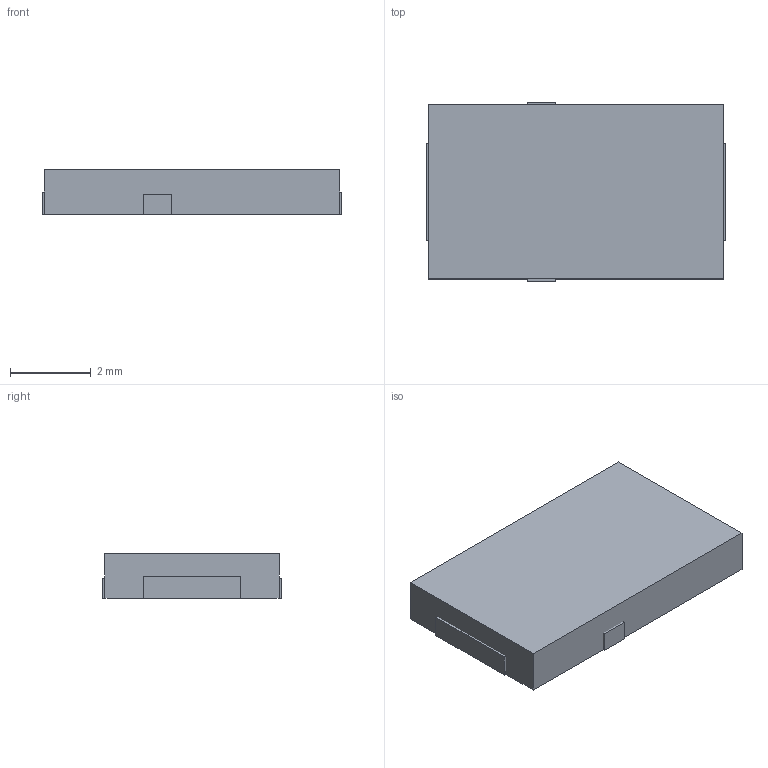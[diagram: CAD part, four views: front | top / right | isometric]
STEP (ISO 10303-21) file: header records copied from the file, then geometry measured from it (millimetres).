
FILE_DESCRIPTION((''),'2;1');
FILE_NAME('Y:\CADデータ\AutoCAD\貞安\7.3D\製品図\営業依頼分\1.SPC\LS1.2.stp','2013-10-01T14:24:52',('4024630'),(''),'Autodesk Inventor 2012','Autodesk Inventor 2012','');
FILE_SCHEMA(('AUTOMOTIVE_DESIGN { 1 0 10303 214 1 1 1 1 }'));
Length unit declared in the file: millimetre
Products named in the file (5): LS1.2; 端子1(0.55); 端子2(0.55); 端子3
Assembly tree (4 placements, depth 2):
  LS1.2
    LS1.2
    端子1(0.55)
    端子2(0.55)
    端子3
Bounding box: 7.4 x 4.4 x 1.1 mm (x, y, z)
Volume: 34.8 mm3; surface area: 123.3 mm2
Topology: 4 solids, 4 shells, 60 faces, 156 edges, 104 vertices
Faces by surface type: plane 60
Entity records: 1949 total; most frequent: CARTESIAN_POINT 329, ORIENTED_EDGE 312, DIRECTION 294, VECTOR 156, LINE 156, EDGE_CURVE 156, VERTEX_POINT 104, AXIS2_PLACEMENT_3D 69
